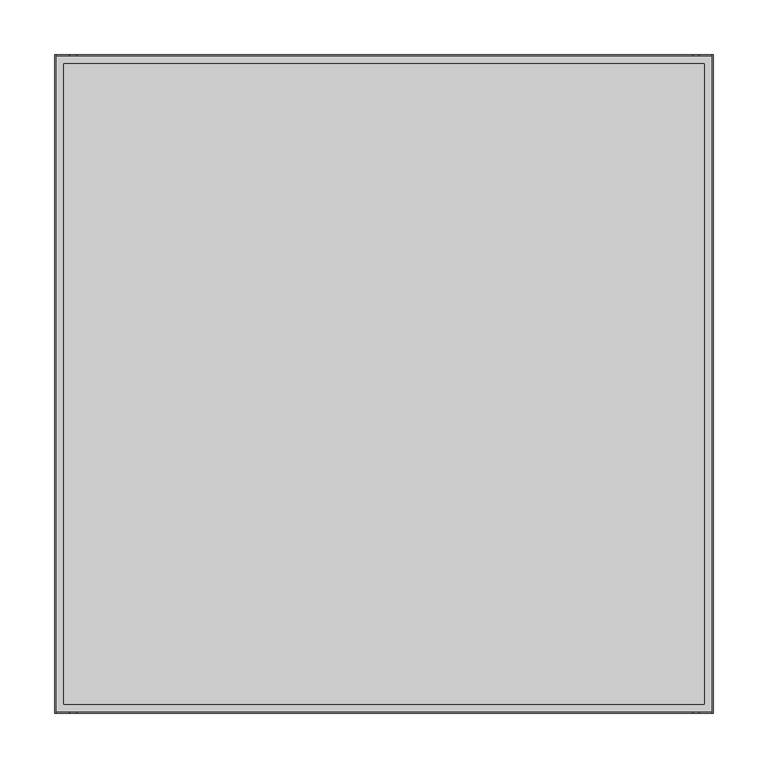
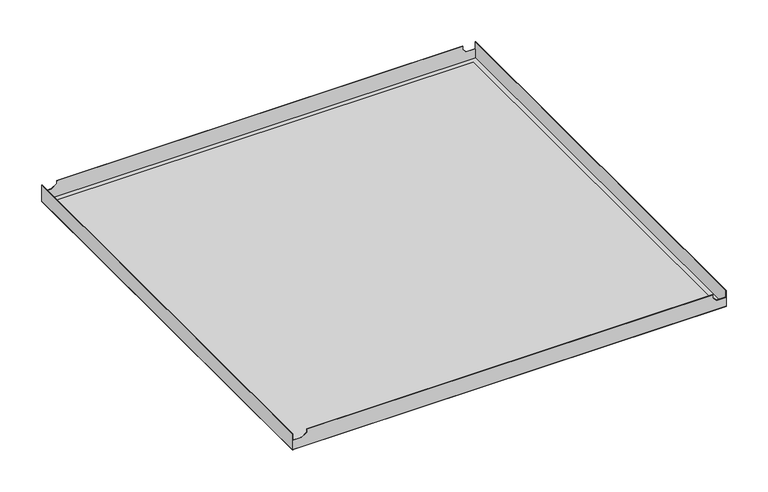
"""IFC4 building model written with IfcOpenShell, lengths in millimetres: proxy geometry, durlum_S1_panel : durlum_S1_panel."""

from ifc_helpers import new_model, si_unit, frame, origin, origin_with_axes, place, context, project, spatial, polyline, outline, extrude, faceted_brep, source, transform, mapped, element, save


def generic_models_cebb11cf(model_context):
    return source(origin(), model_context, "Body", "SolidModel", [
        faceted_brep([(-300.0, 300.0, 23.5), (-300.0, -300.0, 23.5), (-299.4, -300.0, 23.5), (-299.4, 300.0, 23.5), (300.0, -300.0, 23.5), (300.0, 300.0, 23.5), (299.4, 300.0, 23.5), (299.4, -300.0, 23.5), (-279.4, 300.0, 23.5), (-279.4, 299.4, 23.5), (281.4, 299.4, 23.5), (281.4, 300.0, 23.5), (-279.4, -299.4, 23.5), (-279.4, -300.0, 23.5), (281.4, -300.0, 23.5), (281.4, -299.4, 23.5), (300.0, 300.0, 0.6), (300.0, -300.0, 0.6), (-300.0, -300.0, 0.6), (-300.0, 300.0, 0.6), (299.4, 299.4, 0.6), (-299.4, 299.4, 0.6), (-299.4, -299.4, 0.6), (299.4, -299.4, 0.6), (-299.4, 300.0, 13.6669893), (-286.6658218, 300.0, 13.6669893), (-279.4, 300.0, 18.9328111), (281.4, 300.0, 18.9469988), (286.6800094, 300.0, 13.6669893), (299.4, 300.0, 13.6669893), (299.4, -300.0, 13.6669893), (286.6800094, -300.0, 13.6669893), (281.4, -300.0, 18.9469988), (-279.4, -300.0, 18.9328111), (-286.6658218, -300.0, 13.6669893), (-299.4, -300.0, 13.6669893), (299.4, 299.4, 13.6669893), (299.4, -299.4, 13.6669893), (-299.4, -299.4, 13.6669893), (-286.6658218, -299.4, 13.6669893), (-279.4, -299.4, 18.9328111), (281.4, -299.4, 18.9469988), (286.6800094, -299.4, 13.6669893), (-299.4, 299.4, 13.6669893), (286.6800094, 299.4, 13.6669893), (281.4, 299.4, 18.9469988), (-279.4, 299.4, 18.9328111), (-286.6658218, 299.4, 13.6669893)], [[[0, 1, 2, 3]], [[4, 5, 6, 7]], [[8, 9, 10, 11]], [[12, 13, 14, 15]], [[16, 17, 18, 19], [20, 21, 22, 23]], [[16, 19, 0, 3, 24, 25, 26, 8, 11, 27, 28, 29, 6, 5]], [[1, 0, 19, 18]], [[18, 17, 4, 7, 30, 31, 32, 14, 13, 33, 34, 35, 2, 1]], [[5, 4, 17, 16]], [[6, 29, 36, 20, 23, 37, 30, 7]], [[23, 22, 38, 39, 40, 12, 15, 41, 42, 37]], [[22, 21, 43, 24, 3, 2, 35, 38]], [[21, 20, 36, 44, 45, 10, 9, 46, 47, 43]], [[38, 35, 34, 39]], [[24, 43, 47, 25]], [[39, 34, 33, 40]], [[25, 47, 46, 26]], [[40, 33, 13, 12]], [[26, 46, 9, 8]], [[44, 28, 27, 45]], [[31, 42, 41, 32]], [[32, 41, 15, 14]], [[45, 27, 11, 10]], [[36, 29, 28, 44]], [[30, 37, 42, 31]]]),
        extrude(outline(polyline([(292.0, 292.0), (292.0, -292.0), (-292.0, -292.0), (-292.0, 292.0), (292.0, 292.0)])), frame((0.0, 0.0, 0.6), z_axis=(0.0, 0.0, 1.0), x_axis=(1.0, 0.0, 0.0)), (0.0, 0.0, 1.0), 0.6),
        extrude(outline(polyline([(300.0, 300.0), (300.0, -300.0), (-300.0, -300.0), (-300.0, 300.0), (300.0, 300.0)]), holes=[polyline([(292.0, 292.0), (-292.0, 292.0), (-292.0, -292.0), (292.0, -292.0), (292.0, 292.0)])]), origin_with_axes(), (0.0, 0.0, 1.0), 0.6),
        extrude(outline(polyline([(292.0, 292.0), (292.0, -292.0), (-292.0, -292.0), (-292.0, 292.0), (292.0, 292.0)])), origin_with_axes(), (0.0, 0.0, 1.0), 0.6),
    ])


if __name__ == "__main__":
    model = new_model("IFC4")
    model_context = context("Model", 3, world=origin())
    ifc_project = project(units=[si_unit("LENGTHUNIT", "METRE", prefix="MILLI")], contexts=[model_context])
    site = spatial("IfcSite", under=ifc_project)
    building = spatial("IfcBuilding", under=site)
    placement = place(None, origin())
    generic_models_shape = generic_models_cebb11cf(model_context)
    element("IfcBuildingElementProxy", 1, Name="durlum_S1_panel : durlum_S1_panel", ObjectType="durlum_S1_panel : durlum_S1_panel", at=placement, inside=building, context=model_context, shape_type="MappedRepresentation", body=[
        mapped(generic_models_shape, transform((0.0, 0.0, 0.0), x_axis=(1.0, 0.0, 0.0), y_axis=(0.0, 1.0, 0.0), z_axis=(0.0, 0.0, 1.0))),
    ])
    save(model, "model.ifc")
